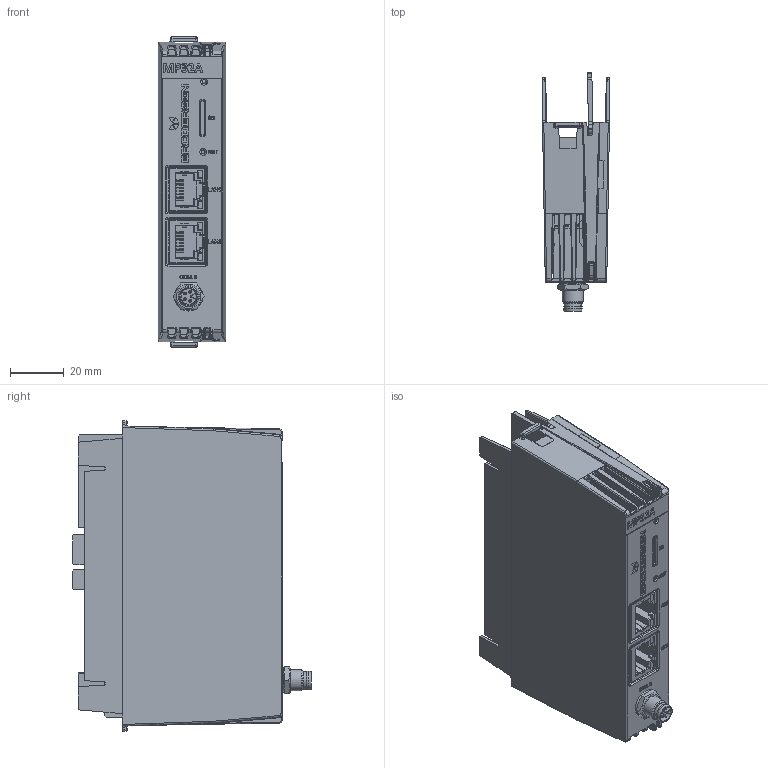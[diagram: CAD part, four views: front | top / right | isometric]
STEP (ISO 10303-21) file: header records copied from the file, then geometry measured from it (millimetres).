
FILE_DESCRIPTION(/* description */ (''),/* implementation_level */ '2;1');
FILE_NAME(/* name */ 'C:\Users\Public\Documents\Autodesk\Inventor 2023\MP32A_REVB_Simplified.stp',/* time_stamp */ '2024-11-14T13:17:21+01:00',/* author */ ('asho'),/* organization */ (''),/* preprocessor_version */ 'ST-DEVELOPER v19',/* originating_system */ 'Autodesk Inventor 2023',/* authorisation */ '');
FILE_SCHEMA (('AUTOMOTIVE_DESIGN { 1 0 10303 214 3 1 1 }'));
Products named in the file (1): MP32A_REVB_Simplified
Bounding box: 24.95 x 88.9 x 115.5 mm (x, y, z)
Volume: 91148.5 mm3; surface area: 59451.8 mm2
Topology: 3 solids, 4 shells, 3713 faces, 10247 edges, 6579 vertices
Faces by surface type: plane 2512, cylinder 740, bspline 337, torus 50, sphere 48, cone 26
Full cylindrical faces by diameter (mm): 0.3 x3, 0.5 x2, 0.75 x2, 0.8 x11, 0.9 x20, 1 x8, 1.02 x8, 1.1 x1, 1.3 x4, 1.6 x1, 1.7 x4, 2.5 x1, 3 x2, 3.2 x4, 5.8 x1, 6.5 x1, 6.9 x1, 6.917 x1, 7.896 x1, 8.416 x2, 9 x1, 10.69 x1
Entity records: 131127 total; most frequent: CARTESIAN_POINT 33561, ORIENTED_EDGE 20372, DIRECTION 18272, EDGE_CURVE 10186, LINE 7734, VECTOR 7734, VERTEX_POINT 6579, AXIS2_PLACEMENT_3D 5269
